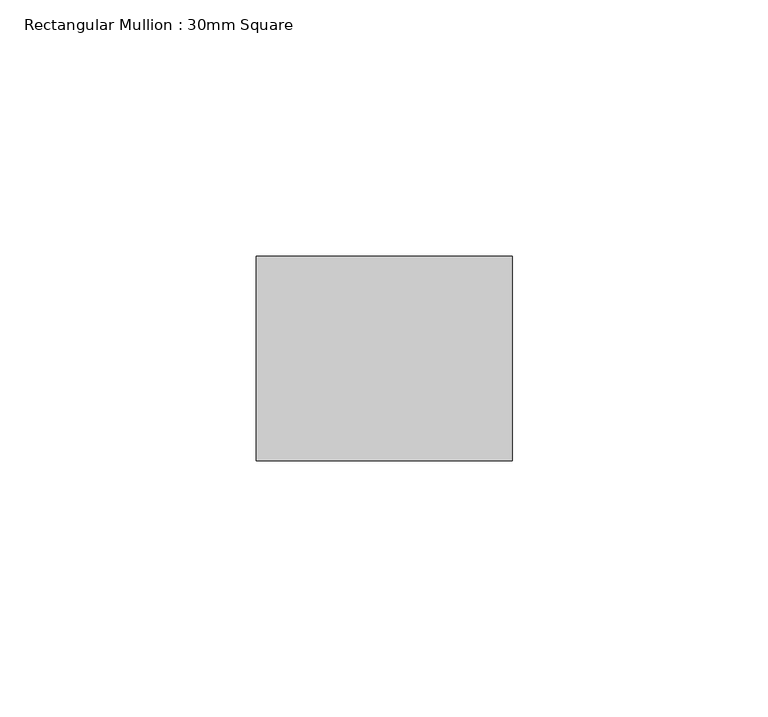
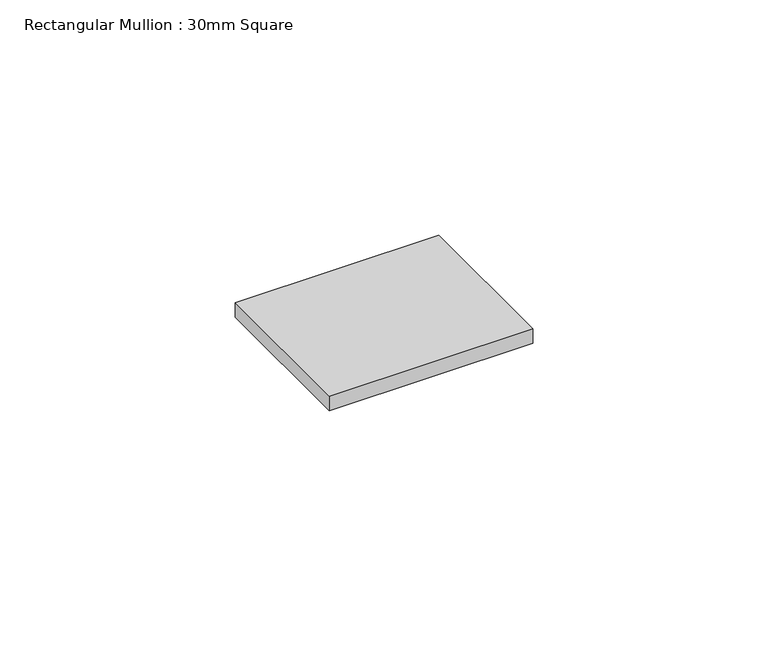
"""IFC4 building model written with IfcOpenShell, lengths in millimetres: member geometry, Rectangular Mullion : 30mm Square."""

from ifc_helpers import new_model, si_unit, frame, origin, place, context, project, spatial, polyline, outline, extrude, source, transform, mapped, element, save


def rectangular_mullion_30mm_square_c99fbce2(model_context):
    return source(origin(), model_context, "Body", "SweptSolid", [
        extrude(outline(polyline([(25.0, 20.0), (25.0, -20.0), (-25.0, -20.0), (-25.0, 20.0), (25.0, 20.0)])), frame((0.0, 0.0, -3.8162338), z_axis=(0.0, 0.0, 1.0), x_axis=(1.0, 0.0, 0.0)), (0.0, 0.0, 1.0), 3.8162338),
    ])


if __name__ == "__main__":
    model = new_model("IFC4")
    model_context = context("Model", 3, world=origin())
    ifc_project = project(units=[si_unit("LENGTHUNIT", "METRE", prefix="MILLI")], contexts=[model_context])
    site = spatial("IfcSite", under=ifc_project)
    building = spatial("IfcBuilding", under=site)
    placement = place(None, origin())
    rectangular_mullion_30mm_square_shape = rectangular_mullion_30mm_square_c99fbce2(model_context)
    element("IfcMember", 1, ObjectType="Rectangular Mullion : 30mm Square", at=placement, inside=building, context=model_context, shape_type="MappedRepresentation", body=[
        mapped(rectangular_mullion_30mm_square_shape, transform((0.0, 0.0, 0.0), x_axis=(1.0, 0.0, 0.0), y_axis=(0.0, 1.0, 0.0), z_axis=(0.0, 0.0, 1.0))),
    ])
    save(model, "model.ifc")
